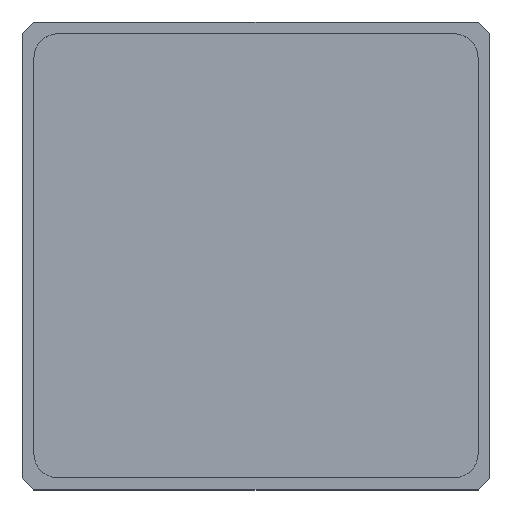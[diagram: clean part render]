
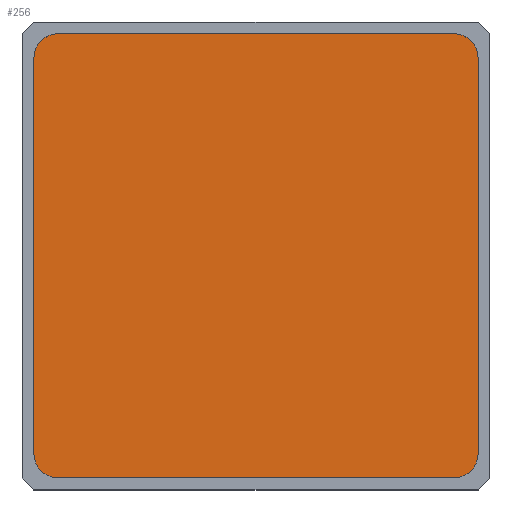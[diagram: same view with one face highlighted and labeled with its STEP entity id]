
A CAD part, top view. The second image highlights one B-rep face of the part: STEP entity #256.
In plain terms, the highlighted planar face has unit normal (0, 0, 1).
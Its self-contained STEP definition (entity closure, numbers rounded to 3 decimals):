
#232=CIRCLE('',#701,4.2);
#233=CIRCLE('',#704,4.2);
#234=CIRCLE('',#707,4.2);
#235=CIRCLE('',#710,4.2);
#256=ADVANCED_FACE('',(#305),#279,.T.);
#279=PLANE('',#713);
#305=FACE_OUTER_BOUND('',#333,.T.);
#333=EDGE_LOOP('',(#430,#431,#432,#433,#434,#435,#436,#437));
#430=ORIENTED_EDGE('',*,*,#551,.T.);
#431=ORIENTED_EDGE('',*,*,#554,.T.);
#432=ORIENTED_EDGE('',*,*,#556,.T.);
#433=ORIENTED_EDGE('',*,*,#558,.T.);
#434=ORIENTED_EDGE('',*,*,#560,.T.);
#435=ORIENTED_EDGE('',*,*,#562,.T.);
#436=ORIENTED_EDGE('',*,*,#564,.T.);
#437=ORIENTED_EDGE('',*,*,#565,.T.);
#502=VERTEX_POINT('',#934);
#503=VERTEX_POINT('',#936);
#504=VERTEX_POINT('',#940);
#505=VERTEX_POINT('',#944);
#506=VERTEX_POINT('',#948);
#507=VERTEX_POINT('',#952);
#508=VERTEX_POINT('',#956);
#509=VERTEX_POINT('',#960);
#551=EDGE_CURVE('',#503,#502,#232,.T.);
#554=EDGE_CURVE('',#502,#504,#613,.T.);
#556=EDGE_CURVE('',#504,#505,#233,.T.);
#558=EDGE_CURVE('',#505,#506,#616,.T.);
#560=EDGE_CURVE('',#506,#507,#234,.T.);
#562=EDGE_CURVE('',#507,#508,#619,.T.);
#564=EDGE_CURVE('',#508,#509,#235,.T.);
#565=EDGE_CURVE('',#509,#503,#621,.T.);
#613=LINE('',#941,#669);
#616=LINE('',#949,#672);
#619=LINE('',#957,#675);
#621=LINE('',#963,#677);
#669=VECTOR('',#795,1.);
#672=VECTOR('',#804,1.);
#675=VECTOR('',#813,1.);
#677=VECTOR('',#821,1.);
#701=AXIS2_PLACEMENT_3D('',#935,#789,#790);
#704=AXIS2_PLACEMENT_3D('',#945,#799,#800);
#707=AXIS2_PLACEMENT_3D('',#953,#808,#809);
#710=AXIS2_PLACEMENT_3D('',#961,#817,#818);
#713=AXIS2_PLACEMENT_3D('',#965,#824,#825);
#789=DIRECTION('',(0.,0.,1.));
#790=DIRECTION('',(0.,-1.,0.));
#795=DIRECTION('',(-1.,0.,0.));
#799=DIRECTION('',(0.,0.,1.));
#800=DIRECTION('',(0.,-1.,0.));
#804=DIRECTION('',(0.,-1.,0.));
#808=DIRECTION('',(0.,0.,1.));
#809=DIRECTION('',(0.,-1.,0.));
#813=DIRECTION('',(1.,0.,0.));
#817=DIRECTION('',(0.,0.,1.));
#818=DIRECTION('',(0.,-1.,0.));
#821=DIRECTION('',(0.,1.,0.));
#824=DIRECTION('',(0.,0.,1.));
#825=DIRECTION('',(1.,0.,0.));
#934=CARTESIAN_POINT('',(33.8,38.,-2.6));
#935=CARTESIAN_POINT('',(33.8,33.8,-2.6));
#936=CARTESIAN_POINT('',(38.,33.8,-2.6));
#940=CARTESIAN_POINT('',(-33.8,38.,-2.6));
#941=CARTESIAN_POINT('',(33.8,38.,-2.6));
#944=CARTESIAN_POINT('',(-38.,33.8,-2.6));
#945=CARTESIAN_POINT('',(-33.8,33.8,-2.6));
#948=CARTESIAN_POINT('',(-38.,-33.8,-2.6));
#949=CARTESIAN_POINT('',(-38.,33.8,-2.6));
#952=CARTESIAN_POINT('',(-33.8,-38.,-2.6));
#953=CARTESIAN_POINT('',(-33.8,-33.8,-2.6));
#956=CARTESIAN_POINT('',(33.8,-38.,-2.6));
#957=CARTESIAN_POINT('',(-33.8,-38.,-2.6));
#960=CARTESIAN_POINT('',(38.,-33.8,-2.6));
#961=CARTESIAN_POINT('',(33.8,-33.8,-2.6));
#963=CARTESIAN_POINT('',(38.,-33.8,-2.6));
#965=CARTESIAN_POINT('',(33.8,33.8,-2.6));
